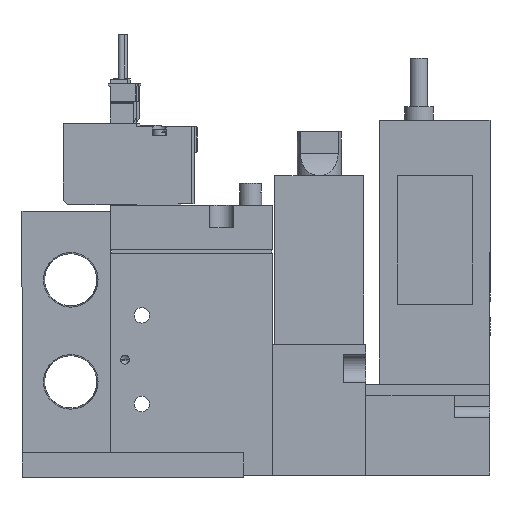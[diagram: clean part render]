
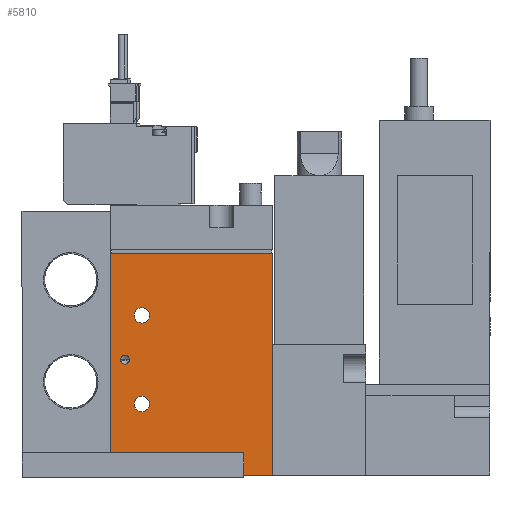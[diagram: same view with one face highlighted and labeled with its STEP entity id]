
A CAD part, left-side view. The second image highlights one B-rep face of the part: STEP entity #5810.
In plain terms, the highlighted planar face has unit normal (-1, 0, 0) as drawn and (1, 0, 0) by its records, which use the part's own axes.
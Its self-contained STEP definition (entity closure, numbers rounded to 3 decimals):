
#5810=ADVANCED_FACE('',(#9606,#9607,#9608,#9609),#9610,.F.);
#9606=FACE_BOUND('',#16023,.T.);
#9607=FACE_BOUND('',#16024,.T.);
#9608=FACE_BOUND('',#16025,.T.);
#9609=FACE_OUTER_BOUND('',#16026,.T.);
#9610=PLANE('',#16027);
#16023=EDGE_LOOP('',(#25565));
#16024=EDGE_LOOP('',(#25566));
#16025=EDGE_LOOP('',(#25567));
#16026=EDGE_LOOP('',(#25568,#25569,#25570,#25571));
#16027=AXIS2_PLACEMENT_3D('',#25572,#25573,#25574);
#25565=ORIENTED_EDGE('',*,*,#44155,.F.);
#25566=ORIENTED_EDGE('',*,*,#44149,.T.);
#25567=ORIENTED_EDGE('',*,*,#44154,.T.);
#25568=ORIENTED_EDGE('',*,*,#44156,.T.);
#25569=ORIENTED_EDGE('',*,*,#44157,.F.);
#25570=ORIENTED_EDGE('',*,*,#44158,.F.);
#25571=ORIENTED_EDGE('',*,*,#44159,.T.);
#25572=CARTESIAN_POINT('',(8.5,-19.444,50.0));
#25573=DIRECTION('',(-1.0,0.0,0.0));
#25574=DIRECTION('',(0.0,0.0,1.0));
#44149=EDGE_CURVE('',#51910,#51910,#51911,.T.);
#44154=EDGE_CURVE('',#51920,#51920,#51921,.T.);
#44155=EDGE_CURVE('',#51922,#51922,#51923,.T.);
#44156=EDGE_CURVE('',#51924,#51925,#51926,.T.);
#44157=EDGE_CURVE('',#51927,#51925,#51928,.T.);
#44158=EDGE_CURVE('',#51929,#51927,#51930,.T.);
#44159=EDGE_CURVE('',#51929,#51924,#51931,.T.);
#51910=VERTEX_POINT('',#64770);
#51911=CIRCLE('',#64771,1.75);
#51920=VERTEX_POINT('',#64780);
#51921=CIRCLE('',#64781,1.75);
#51922=VERTEX_POINT('',#64782);
#51923=CIRCLE('',#64783,1.0);
#51924=VERTEX_POINT('',#64784);
#51925=VERTEX_POINT('',#64785);
#51926=LINE('',#64786,#64787);
#51927=VERTEX_POINT('',#64788);
#51928=LINE('',#64789,#64790);
#51929=VERTEX_POINT('',#64791);
#51930=LINE('',#64792,#64793);
#51931=LINE('',#64794,#64795);
#64770=CARTESIAN_POINT('',(8.5,-10.694,36.0));
#64771=AXIS2_PLACEMENT_3D('',#80493,#80494,#80495);
#64780=CARTESIAN_POINT('',(8.5,-10.694,16.0));
#64781=AXIS2_PLACEMENT_3D('',#80508,#80509,#80510);
#64782=CARTESIAN_POINT('',(8.5,-17.244,26.0));
#64783=AXIS2_PLACEMENT_3D('',#80511,#80512,#80513);
#64784=CARTESIAN_POINT('',(8.5,-19.444,0.0));
#64785=CARTESIAN_POINT('',(8.5,17.056,0.0));
#64786=CARTESIAN_POINT('',(8.5,-19.444,0.0));
#64787=VECTOR('',#80514,1.0);
#64788=CARTESIAN_POINT('',(8.5,17.056,50.0));
#64789=CARTESIAN_POINT('',(8.5,17.056,50.0));
#64790=VECTOR('',#80515,1.0);
#64791=CARTESIAN_POINT('',(8.5,-19.444,50.0));
#64792=CARTESIAN_POINT('',(8.5,-19.444,50.0));
#64793=VECTOR('',#80516,1.0);
#64794=CARTESIAN_POINT('',(8.5,-19.444,50.0));
#64795=VECTOR('',#80517,1.0);
#80493=CARTESIAN_POINT('',(8.5,-12.444,36.0));
#80494=DIRECTION('',(-1.0,0.0,0.0));
#80495=DIRECTION('',(0.0,1.0,0.0));
#80508=CARTESIAN_POINT('',(8.5,-12.444,16.0));
#80509=DIRECTION('',(-1.0,0.0,0.0));
#80510=DIRECTION('',(0.0,1.0,0.0));
#80511=CARTESIAN_POINT('',(8.5,-16.244,26.0));
#80512=DIRECTION('',(1.0,0.,0.0));
#80513=DIRECTION('',(0.,-1.0,0.0));
#80514=DIRECTION('',(0.0,1.0,0.0));
#80515=DIRECTION('',(0.0,0.0,-1.0));
#80516=DIRECTION('',(0.0,1.0,0.0));
#80517=DIRECTION('',(0.0,0.0,-1.0));
